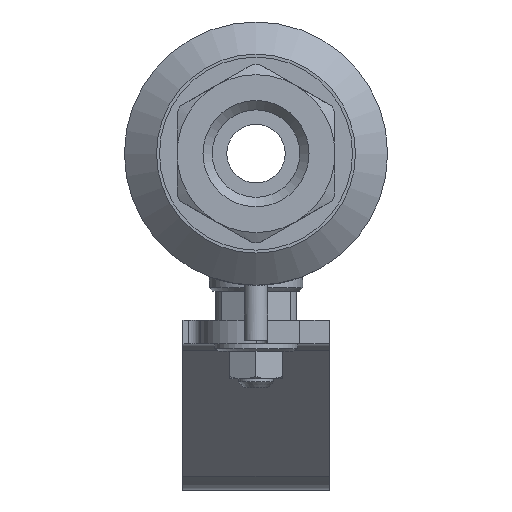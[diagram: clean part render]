
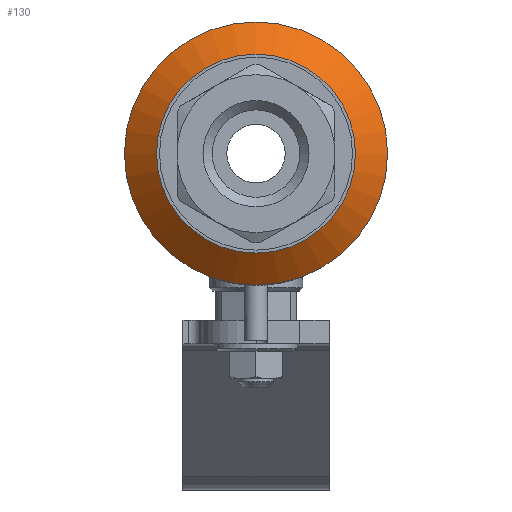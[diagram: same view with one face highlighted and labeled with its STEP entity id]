
A CAD part, left-side view. The second image highlights one B-rep face of the part: STEP entity #130.
In plain terms, the highlighted conical face has half-angle 50 degrees and reference radius 19.75 mm.
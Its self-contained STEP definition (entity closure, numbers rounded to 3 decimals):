
#130=ADVANCED_FACE('',(#1051),#1053,.T.);
#1051=FACE_OUTER_BOUND('',#1052,.T.);
#1052=EDGE_LOOP('',(#2165,#2166,#2167,#2168));
#1053=CONICAL_SURFACE('',#1054,19.75,0.873);
#1054=AXIS2_PLACEMENT_3D('',#1055,#1056,#1057);
#1055=CARTESIAN_POINT('',(-17.692,0.,0.));
#1056=DIRECTION('',(1.,0.,0.));
#1057=DIRECTION('',(0.,1.,0.));
#2165=ORIENTED_EDGE('',*,*,#3299,.T.);
#2166=ORIENTED_EDGE('',*,*,#3287,.T.);
#2167=ORIENTED_EDGE('',*,*,#3299,.F.);
#2168=ORIENTED_EDGE('',*,*,#3300,.F.);
#3287=EDGE_CURVE('',#3655,#3655,#3657,.T.);
#3299=EDGE_CURVE('',#3672,#3655,#3673,.T.);
#3300=EDGE_CURVE('',#3672,#3672,#3674,.T.);
#3655=VERTEX_POINT('',#5161);
#3657=CIRCLE('',#5165,22.5);
#3672=VERTEX_POINT('',#5214);
#3673=LINE('',#5215,#5216);
#3674=CIRCLE('',#5218,17.);
#5161=CARTESIAN_POINT('',(-15.385,-22.5,0.));
#5165=AXIS2_PLACEMENT_3D('',#5166,#5167,#5168);
#5166=CARTESIAN_POINT('',(-15.385,0.,0.));
#5167=DIRECTION('',(-1.,-0.,0.));
#5168=DIRECTION('',(0.,-1.,0.));
#5214=CARTESIAN_POINT('',(-20.,-17.,0.));
#5215=CARTESIAN_POINT('',(-20.,-17.,0.));
#5216=VECTOR('',#5217,1.);
#5217=DIRECTION('',(0.643,-0.766,0.));
#5218=AXIS2_PLACEMENT_3D('',#5219,#5220,#5221);
#5219=CARTESIAN_POINT('',(-20.,0.,0.));
#5220=DIRECTION('',(-1.,-0.,-0.));
#5221=DIRECTION('',(0.,-1.,0.));
